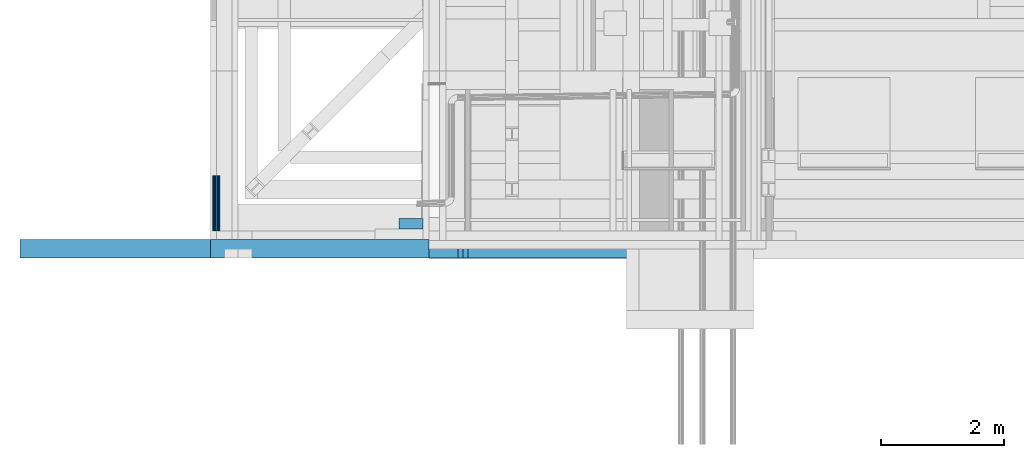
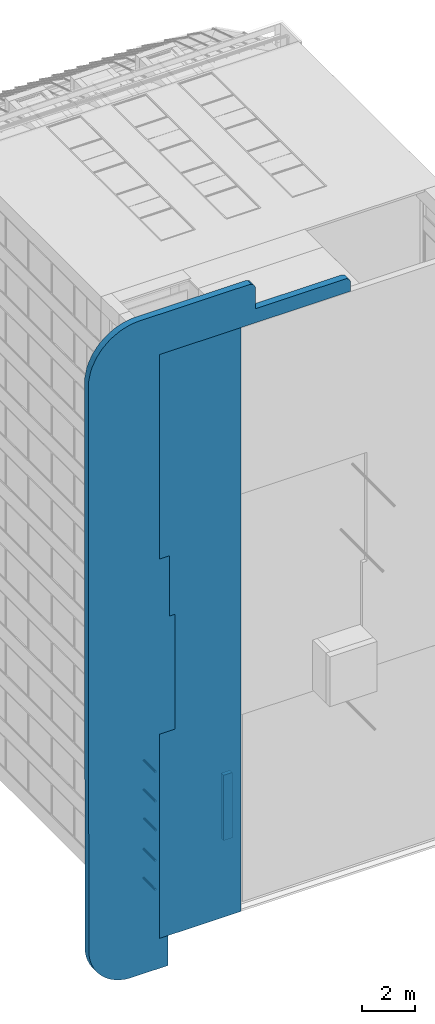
# One storey, part 241 of 583: 5 members, 3 slabs.
"""IFC2X3 building model written with IfcOpenShell, lengths in metres."""

from ifc_helpers import new_model, entity, si_unit, converted_unit, derived_unit, money_unit, direction, frame, origin_with_axes, place, context, subcontext, project, spatial, faceted_brep, material, type_object, element, save


model = new_model("IFC2X3")

# Units and contexts
model_context = context("Model", 3, precision=1e-05, world=origin_with_axes(), true_north=direction((0.0, 1.0)))
body_context = subcontext(model_context, "Body", "Model", "MODEL_VIEW", scale=1.0)
ifc_project = project(units=[si_unit("LENGTHUNIT", "METRE"), si_unit("AREAUNIT", "SQUARE_METRE"), si_unit("VOLUMEUNIT", "CUBIC_METRE"), si_unit("ABSORBEDDOSEUNIT", "GRAY"), si_unit("AMOUNTOFSUBSTANCEUNIT", "MOLE"), si_unit("DOSEEQUIVALENTUNIT", "SIEVERT"), si_unit("ELECTRICCAPACITANCEUNIT", "FARAD"), si_unit("ELECTRICCHARGEUNIT", "COULOMB"), si_unit("ELECTRICCONDUCTANCEUNIT", "SIEMENS"), si_unit("ELECTRICCURRENTUNIT", "AMPERE"), si_unit("ELECTRICRESISTANCEUNIT", "OHM"), si_unit("ELECTRICVOLTAGEUNIT", "VOLT"), si_unit("ENERGYUNIT", "JOULE"), si_unit("FORCEUNIT", "NEWTON"), si_unit("FREQUENCYUNIT", "HERTZ"), si_unit("ILLUMINANCEUNIT", "LUX"), si_unit("INDUCTANCEUNIT", "HENRY"), si_unit("LUMINOUSFLUXUNIT", "LUMEN"), si_unit("LUMINOUSINTENSITYUNIT", "CANDELA"), si_unit("MAGNETICFLUXDENSITYUNIT", "TESLA"), si_unit("MAGNETICFLUXUNIT", "WEBER"), si_unit("MASSUNIT", "GRAM"), converted_unit("PLANEANGLEUNIT", "degree", entity("IfcReal", 0.0174532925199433), si_unit("PLANEANGLEUNIT", "RADIAN"), dimensions=[0, 0, 0, 0, 0, 0, 0]), si_unit("POWERUNIT", "WATT"), si_unit("PRESSUREUNIT", "PASCAL"), si_unit("RADIOACTIVITYUNIT", "BECQUEREL"), si_unit("SOLIDANGLEUNIT", "STERADIAN"), si_unit("THERMODYNAMICTEMPERATUREUNIT", "KELVIN"), si_unit("TIMEUNIT", "SECOND"), derived_unit("ACCELERATIONUNIT", [(si_unit("LENGTHUNIT", "METRE"), 1), (si_unit("TIMEUNIT", "SECOND"), -2)]), derived_unit("ANGULARVELOCITYUNIT", [(converted_unit("PLANEANGLEUNIT", "degree", entity("IfcReal", 0.0174532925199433), si_unit("PLANEANGLEUNIT", "RADIAN"), dimensions=[0, 0, 0, 0, 0, 0, 0]), 1), (si_unit("TIMEUNIT", "SECOND"), -1)]), derived_unit("CURVATUREUNIT", [(converted_unit("PLANEANGLEUNIT", "degree", entity("IfcReal", 0.0174532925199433), si_unit("PLANEANGLEUNIT", "RADIAN"), dimensions=[0, 0, 0, 0, 0, 0, 0]), 1), (si_unit("LENGTHUNIT", "METRE"), -1)]), derived_unit("DYNAMICVISCOSITYUNIT", [(si_unit("PRESSUREUNIT", "PASCAL"), 1), (si_unit("TIMEUNIT", "SECOND"), 1)]), derived_unit("HEATFLUXDENSITYUNIT", [(si_unit("POWERUNIT", "WATT"), 1), (si_unit("LENGTHUNIT", "METRE"), -2)]), derived_unit("HEATINGVALUEUNIT", [(si_unit("ENERGYUNIT", "JOULE"), 1), (si_unit("MASSUNIT", "GRAM"), -1)]), derived_unit("INTEGERCOUNTRATEUNIT", [(si_unit("TIMEUNIT", "SECOND"), -1)]), derived_unit("IONCONCENTRATIONUNIT", [(si_unit("MASSUNIT", "GRAM"), 1), (si_unit("VOLUMEUNIT", "CUBIC_METRE"), -1)]), derived_unit("ISOTHERMALMOISTURECAPACITYUNIT", [(si_unit("VOLUMEUNIT", "CUBIC_METRE"), 1), (si_unit("MASSUNIT", "GRAM"), -1)]), derived_unit("KINEMATICVISCOSITYUNIT", [(si_unit("AREAUNIT", "SQUARE_METRE"), 1), (si_unit("TIMEUNIT", "SECOND"), -1)]), derived_unit("LINEARFORCEUNIT", [(si_unit("FORCEUNIT", "NEWTON"), 1), (si_unit("LENGTHUNIT", "METRE"), -1)]), derived_unit("LINEARMOMENTUNIT", [(si_unit("FORCEUNIT", "NEWTON"), 1), (si_unit("LENGTHUNIT", "METRE"), -1)]), derived_unit("LINEARSTIFFNESSUNIT", [(si_unit("FORCEUNIT", "NEWTON"), 1), (si_unit("LENGTHUNIT", "METRE"), -1)]), derived_unit("LINEARVELOCITYUNIT", [(si_unit("LENGTHUNIT", "METRE"), 1), (si_unit("TIMEUNIT", "SECOND"), -1)]), derived_unit("LUMINOUSINTENSITYDISTRIBUTIONUNIT", [(si_unit("LUMINOUSINTENSITYUNIT", "CANDELA"), 1), (si_unit("LUMINOUSFLUXUNIT", "LUMEN"), -1)]), derived_unit("MASSDENSITYUNIT", [(si_unit("MASSUNIT", "GRAM"), 1), (si_unit("VOLUMEUNIT", "CUBIC_METRE"), -1)]), derived_unit("MASSFLOWRATEUNIT", [(si_unit("MASSUNIT", "GRAM"), 1), (si_unit("TIMEUNIT", "SECOND"), -1)]), derived_unit("MASSPERLENGTHUNIT", [(si_unit("MASSUNIT", "GRAM"), 1), (si_unit("LENGTHUNIT", "METRE"), -1)]), derived_unit("MODULUSOFELASTICITYUNIT", [(si_unit("FORCEUNIT", "NEWTON"), 1), (si_unit("AREAUNIT", "SQUARE_METRE"), -1)]), derived_unit("MODULUSOFLINEARSUBGRADEREACTIONUNIT", [(si_unit("FORCEUNIT", "NEWTON"), 1), (si_unit("LENGTHUNIT", "METRE"), -2)]), derived_unit("MODULUSOFROTATIONALSUBGRADEREACTIONUNIT", [(si_unit("FORCEUNIT", "NEWTON"), 1), (si_unit("LENGTHUNIT", "METRE"), 1)]), derived_unit("MODULUSOFSUBGRADEREACTIONUNIT", [(si_unit("FORCEUNIT", "NEWTON"), 1), (si_unit("VOLUMEUNIT", "CUBIC_METRE"), -1)]), derived_unit("MOISTUREDIFFUSIVITYUNIT", [(si_unit("VOLUMEUNIT", "CUBIC_METRE"), 1), (si_unit("TIMEUNIT", "SECOND"), -1)]), derived_unit("MOLECULARWEIGHTUNIT", [(si_unit("MASSUNIT", "GRAM"), 1), (si_unit("AMOUNTOFSUBSTANCEUNIT", "MOLE"), -1)]), derived_unit("PLANARFORCEUNIT", [(si_unit("FORCEUNIT", "NEWTON"), 1), (si_unit("LENGTHUNIT", "METRE"), -2)]), derived_unit("ROTATIONALFREQUENCYUNIT", [(si_unit("TIMEUNIT", "SECOND"), -1)]), derived_unit("ROTATIONALMASSUNIT", [(si_unit("MASSUNIT", "GRAM"), 1), (si_unit("LENGTHUNIT", "METRE"), 2)]), derived_unit("ROTATIONALSTIFFNESSUNIT", [(si_unit("FORCEUNIT", "NEWTON"), 1), (si_unit("LENGTHUNIT", "METRE"), 1), (converted_unit("PLANEANGLEUNIT", "degree", entity("IfcReal", 0.0174532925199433), si_unit("PLANEANGLEUNIT", "RADIAN"), dimensions=[0, 0, 0, 0, 0, 0, 0]), -1)]), derived_unit("SECTIONAREAINTEGRALUNIT", [(si_unit("LENGTHUNIT", "METRE"), 5)]), derived_unit("SECTIONMODULUSUNIT", [(si_unit("LENGTHUNIT", "METRE"), 3)]), derived_unit("SHEARMODULUSUNIT", [(si_unit("FORCEUNIT", "NEWTON"), 1), (si_unit("AREAUNIT", "SQUARE_METRE"), -1)]), derived_unit("SOUNDPOWERUNIT", [(si_unit("ENERGYUNIT", "JOULE"), 1), (si_unit("TIMEUNIT", "SECOND"), -1)]), derived_unit("SPECIFICHEATCAPACITYUNIT", [(si_unit("FORCEUNIT", "NEWTON"), 1), (si_unit("MASSUNIT", "GRAM"), -1), (si_unit("THERMODYNAMICTEMPERATUREUNIT", "KELVIN"), -1)]), derived_unit("TEMPERATUREGRADIENTUNIT", [(si_unit("THERMODYNAMICTEMPERATUREUNIT", "KELVIN"), 1), (si_unit("LENGTHUNIT", "METRE"), -1)]), derived_unit("THERMALADMITTANCEUNIT", [(si_unit("POWERUNIT", "WATT"), 1), (si_unit("AREAUNIT", "SQUARE_METRE"), -1), (si_unit("THERMODYNAMICTEMPERATUREUNIT", "KELVIN"), -1)]), derived_unit("THERMALCONDUCTANCEUNIT", [(si_unit("POWERUNIT", "WATT"), 1), (si_unit("LENGTHUNIT", "METRE"), -1), (si_unit("THERMODYNAMICTEMPERATUREUNIT", "KELVIN"), -1)]), derived_unit("THERMALEXPANSIONCOEFFICIENTUNIT", [(si_unit("THERMODYNAMICTEMPERATUREUNIT", "KELVIN"), -1)]), derived_unit("THERMALRESISTANCEUNIT", [(si_unit("AREAUNIT", "SQUARE_METRE"), 1), (si_unit("POWERUNIT", "WATT"), -1)]), derived_unit("THERMALTRANSMITTANCEUNIT", [(si_unit("POWERUNIT", "WATT"), 1), (si_unit("AREAUNIT", "SQUARE_METRE"), -1), (si_unit("THERMODYNAMICTEMPERATUREUNIT", "KELVIN"), -1)]), derived_unit("TORQUEUNIT", [(si_unit("FORCEUNIT", "NEWTON"), 1), (si_unit("LENGTHUNIT", "METRE"), 1)]), derived_unit("VAPORPERMEABILITYUNIT", [(si_unit("MASSUNIT", "GRAM"), 1), (si_unit("TIMEUNIT", "SECOND"), -1)]), derived_unit("VOLUMETRICFLOWRATEUNIT", [(si_unit("VOLUMEUNIT", "CUBIC_METRE"), 1), (si_unit("TIMEUNIT", "SECOND"), -1)]), derived_unit("WARPINGCONSTANTUNIT", [(si_unit("LENGTHUNIT", "METRE"), 6)]), derived_unit("WARPINGMOMENTUNIT", [(si_unit("FORCEUNIT", "NEWTON"), 1), (si_unit("LENGTHUNIT", "METRE"), 2)]), money_unit("GBP")], contexts=[model_context])

# Site, building, storey
site_placement = place(None, origin_with_axes())
site = spatial("IfcSite", under=ifc_project, at=site_placement, Name="Site", CompositionType="ELEMENT")
building_placement = place(site_placement, origin_with_axes())
building = spatial("IfcBuilding", under=site, at=building_placement, Name="Building01", CompositionType="ELEMENT")
storey_placement = place(building_placement, frame((0.0, 0.0, 20.78), z_axis=(0.0, 0.0, 1.0), x_axis=(1.0, 0.0, 0.0)))
storey = spatial("IfcBuildingStorey", under=building, at=storey_placement, Name="RL", CompositionType="ELEMENT", Elevation=20.78)

# Members
ifc_material_1 = material(Name="A_BSUK_Steel_Miscellaneous")
member_type = type_object("IfcMemberType", Name="A-FrameElements:A_BSUK_Steel_Miscellaneous", PredefinedType="NOTDEFINED")
placement = place(storey_placement, frame((0.0, 0.0, -20.78), z_axis=(0.0, 0.0, 1.0), x_axis=(1.0, 0.0, 0.0)))
element("IfcMember", 1, at=placement, inside=storey, type_object=member_type, material=ifc_material_1, Name="A-FrameElements--A_BSUK_Steel_Miscellaneous", ObjectType="A-FrameElements:A_BSUK_Steel_Miscellaneous", context=body_context, shape_type="Brep", body=[
    faceted_brep([(0.062308, 0.0, 2.009894), (0.045543, 0.0, 1.998692), (0.03434, 0.0, 1.981927), (0.030407, 0.0, 1.962151), (0.03434, 0.0, 1.942374), (0.045543, 0.0, 1.925609), (0.062308, 0.0, 1.914407), (0.082084, 0.0, 1.910473), (0.10186, 0.0, 1.914407), (0.118626, 0.0, 1.925609), (0.129828, 0.0, 1.942374), (0.133762, 0.0, 1.962151), (0.129828, 0.0, 1.981927), (0.118626, 0.0, 1.998692), (0.10186, 0.0, 2.009894), (0.082084, 0.0, 2.013828), (0.079695, 0.0, 2.013773), (0.082084, 0.9, 1.910473), (0.10186, 0.9, 1.914407), (0.118626, 0.9, 1.925609), (0.129828, 0.9, 1.942374), (0.133762, 0.9, 1.962151), (0.129828, 0.9, 1.981927), (0.118626, 0.9, 1.998692), (0.10186, 0.9, 2.009894), (0.082084, 0.9, 2.013828), (0.079695, 0.9, 2.013773), (0.062308, 0.9, 2.009894), (0.045543, 0.9, 1.998692), (0.03434, 0.9, 1.981927), (0.030407, 0.9, 1.962151), (0.03434, 0.9, 1.942374), (0.045543, 0.9, 1.925609), (0.062308, 0.9, 1.914407)], [[[0, 1, 2, 3, 4, 5, 6, 7, 8, 9, 10, 11, 12, 13, 14, 15, 16]], [[7, 17, 18, 8]], [[8, 18, 19, 9]], [[9, 19, 20, 10]], [[10, 20, 21, 11]], [[11, 21, 22, 12]], [[12, 22, 23, 13]], [[13, 23, 24, 14]], [[14, 24, 25, 15]], [[26, 27, 0, 16]], [[0, 27, 28, 1]], [[1, 28, 29, 2]], [[2, 29, 30, 3]], [[3, 30, 31, 4]], [[4, 31, 32, 5]], [[5, 32, 33, 6]], [[6, 33, 17, 7]], [[16, 15, 25, 26]], [[25, 24, 23, 22, 21, 20, 19, 18, 17, 33, 32, 31, 30, 29, 28, 27, 26]]]),
])
element("IfcMember", 2, at=placement, inside=storey, type_object=member_type, material=ifc_material_1, Name="A-FrameElements--A_BSUK_Steel_Miscellaneous", ObjectType="A-FrameElements:A_BSUK_Steel_Miscellaneous", context=body_context, shape_type="Brep", body=[
    faceted_brep([(0.062308, 0.0, 3.346752), (0.045543, 0.0, 3.33555), (0.03434, 0.0, 3.318784), (0.030407, 0.0, 3.299008), (0.03434, 0.0, 3.279232), (0.045543, 0.0, 3.262466), (0.062308, 0.0, 3.251264), (0.082084, 0.0, 3.24733), (0.10186, 0.0, 3.251264), (0.118626, 0.0, 3.262466), (0.129828, 0.0, 3.279232), (0.133762, 0.0, 3.299008), (0.129828, 0.0, 3.318784), (0.118626, 0.0, 3.33555), (0.10186, 0.0, 3.346752), (0.082084, 0.0, 3.350686), (0.079695, 0.0, 3.35063), (0.082084, 0.9, 3.24733), (0.10186, 0.9, 3.251264), (0.118626, 0.9, 3.262466), (0.129828, 0.9, 3.279232), (0.133762, 0.9, 3.299008), (0.129828, 0.9, 3.318784), (0.118626, 0.9, 3.33555), (0.10186, 0.9, 3.346752), (0.082084, 0.9, 3.350686), (0.079695, 0.9, 3.35063), (0.062308, 0.9, 3.346752), (0.045543, 0.9, 3.33555), (0.03434, 0.9, 3.318784), (0.030407, 0.9, 3.299008), (0.03434, 0.9, 3.279232), (0.045543, 0.9, 3.262466), (0.062308, 0.9, 3.251264)], [[[0, 1, 2, 3, 4, 5, 6, 7, 8, 9, 10, 11, 12, 13, 14, 15, 16]], [[7, 17, 18, 8]], [[8, 18, 19, 9]], [[9, 19, 20, 10]], [[10, 20, 21, 11]], [[11, 21, 22, 12]], [[12, 22, 23, 13]], [[13, 23, 24, 14]], [[14, 24, 25, 15]], [[26, 27, 0, 16]], [[0, 27, 28, 1]], [[1, 28, 29, 2]], [[2, 29, 30, 3]], [[3, 30, 31, 4]], [[4, 31, 32, 5]], [[5, 32, 33, 6]], [[6, 33, 17, 7]], [[16, 15, 25, 26]], [[25, 24, 23, 22, 21, 20, 19, 18, 17, 33, 32, 31, 30, 29, 28, 27, 26]]]),
])
element("IfcMember", 3, at=placement, inside=storey, type_object=member_type, material=ifc_material_1, Name="A-FrameElements--A_BSUK_Steel_Miscellaneous", ObjectType="A-FrameElements:A_BSUK_Steel_Miscellaneous", context=body_context, shape_type="Brep", body=[
    faceted_brep([(0.08334, 0.0, 4.742823), (0.066575, 0.0, 4.731621), (0.055373, 0.0, 4.714856), (0.051439, 0.0, 4.695079), (0.055373, 0.0, 4.675303), (0.066575, 0.0, 4.658538), (0.08334, 0.0, 4.647335), (0.103117, 0.0, 4.643402), (0.122893, 0.0, 4.647335), (0.139658, 0.0, 4.658538), (0.15086, 0.0, 4.675303), (0.154794, 0.0, 4.695079), (0.15086, 0.0, 4.714856), (0.139658, 0.0, 4.731621), (0.122893, 0.0, 4.742823), (0.103117, 0.0, 4.746757), (0.100727, 0.0, 4.746702), (0.103117, 0.9, 4.643402), (0.122893, 0.9, 4.647335), (0.139658, 0.9, 4.658538), (0.15086, 0.9, 4.675303), (0.154794, 0.9, 4.695079), (0.15086, 0.9, 4.714856), (0.139658, 0.9, 4.731621), (0.122893, 0.9, 4.742823), (0.103117, 0.9, 4.746757), (0.100727, 0.9, 4.746702), (0.08334, 0.9, 4.742823), (0.066575, 0.9, 4.731621), (0.055373, 0.9, 4.714856), (0.051439, 0.9, 4.695079), (0.055373, 0.9, 4.675303), (0.066575, 0.9, 4.658538), (0.08334, 0.9, 4.647335)], [[[0, 1, 2, 3, 4, 5, 6, 7, 8, 9, 10, 11, 12, 13, 14, 15, 16]], [[7, 17, 18, 8]], [[8, 18, 19, 9]], [[9, 19, 20, 10]], [[10, 20, 21, 11]], [[11, 21, 22, 12]], [[12, 22, 23, 13]], [[13, 23, 24, 14]], [[14, 24, 25, 15]], [[26, 27, 0, 16]], [[0, 27, 28, 1]], [[1, 28, 29, 2]], [[2, 29, 30, 3]], [[3, 30, 31, 4]], [[4, 31, 32, 5]], [[5, 32, 33, 6]], [[6, 33, 17, 7]], [[16, 15, 25, 26]], [[25, 24, 23, 22, 21, 20, 19, 18, 17, 33, 32, 31, 30, 29, 28, 27, 26]]]),
])
element("IfcMember", 4, at=placement, inside=storey, type_object=member_type, material=ifc_material_1, Name="A-FrameElements--A_BSUK_Steel_Miscellaneous", ObjectType="A-FrameElements:A_BSUK_Steel_Miscellaneous", context=body_context, shape_type="Brep", body=[
    faceted_brep([(0.062814, 0.0, 6.091739), (0.046049, 0.0, 6.080537), (0.034847, 0.0, 6.063771), (0.030913, 0.0, 6.043995), (0.034847, 0.0, 6.024219), (0.046049, 0.0, 6.007453), (0.062814, 0.0, 5.996251), (0.082591, 0.0, 5.992317), (0.102367, 0.0, 5.996251), (0.119132, 0.0, 6.007453), (0.130334, 0.0, 6.024219), (0.134268, 0.0, 6.043995), (0.130334, 0.0, 6.063771), (0.119132, 0.0, 6.080537), (0.102367, 0.0, 6.091739), (0.082591, 0.0, 6.095673), (0.080201, 0.0, 6.095617), (0.082591, 0.9, 5.992317), (0.102367, 0.9, 5.996251), (0.119132, 0.9, 6.007453), (0.130334, 0.9, 6.024219), (0.134268, 0.9, 6.043995), (0.130334, 0.9, 6.063771), (0.119132, 0.9, 6.080537), (0.102367, 0.9, 6.091739), (0.082591, 0.9, 6.095673), (0.080201, 0.9, 6.095617), (0.062814, 0.9, 6.091739), (0.046049, 0.9, 6.080537), (0.034847, 0.9, 6.063771), (0.030913, 0.9, 6.043995), (0.034847, 0.9, 6.024219), (0.046049, 0.9, 6.007453), (0.062814, 0.9, 5.996251)], [[[0, 1, 2, 3, 4, 5, 6, 7, 8, 9, 10, 11, 12, 13, 14, 15, 16]], [[7, 17, 18, 8]], [[8, 18, 19, 9]], [[9, 19, 20, 10]], [[10, 20, 21, 11]], [[11, 21, 22, 12]], [[12, 22, 23, 13]], [[13, 23, 24, 14]], [[14, 24, 25, 15]], [[26, 27, 0, 16]], [[0, 27, 28, 1]], [[1, 28, 29, 2]], [[2, 29, 30, 3]], [[3, 30, 31, 4]], [[4, 31, 32, 5]], [[5, 32, 33, 6]], [[6, 33, 17, 7]], [[16, 15, 25, 26]], [[25, 24, 23, 22, 21, 20, 19, 18, 17, 33, 32, 31, 30, 29, 28, 27, 26]]]),
])
element("IfcMember", 5, at=placement, inside=storey, type_object=member_type, material=ifc_material_1, Name="A-FrameElements--A_BSUK_Steel_Miscellaneous", ObjectType="A-FrameElements:A_BSUK_Steel_Miscellaneous", context=body_context, shape_type="Brep", body=[
    faceted_brep([(0.072802, 0.0, 7.444789), (0.056036, 0.0, 7.433586), (0.044834, 0.0, 7.416821), (0.0409, 0.0, 7.397045), (0.044834, 0.0, 7.377269), (0.056036, 0.0, 7.360503), (0.072802, 0.0, 7.349301), (0.092578, 0.0, 7.345367), (0.112354, 0.0, 7.349301), (0.129119, 0.0, 7.360503), (0.140322, 0.0, 7.377269), (0.144256, 0.0, 7.397045), (0.140322, 0.0, 7.416821), (0.129119, 0.0, 7.433586), (0.112354, 0.0, 7.444789), (0.092578, 0.0, 7.448723), (0.090189, 0.0, 7.448667), (0.092578, 0.9, 7.345367), (0.112354, 0.9, 7.349301), (0.129119, 0.9, 7.360503), (0.140322, 0.9, 7.377269), (0.144256, 0.9, 7.397045), (0.140322, 0.9, 7.416821), (0.129119, 0.9, 7.433586), (0.112354, 0.9, 7.444789), (0.092578, 0.9, 7.448723), (0.090189, 0.9, 7.448667), (0.072802, 0.9, 7.444789), (0.056036, 0.9, 7.433586), (0.044834, 0.9, 7.416821), (0.0409, 0.9, 7.397045), (0.044834, 0.9, 7.377269), (0.056036, 0.9, 7.360503), (0.072802, 0.9, 7.349301)], [[[0, 1, 2, 3, 4, 5, 6, 7, 8, 9, 10, 11, 12, 13, 14, 15, 16]], [[7, 17, 18, 8]], [[8, 18, 19, 9]], [[9, 19, 20, 10]], [[10, 20, 21, 11]], [[11, 21, 22, 12]], [[12, 22, 23, 13]], [[13, 23, 24, 14]], [[14, 24, 25, 15]], [[26, 27, 0, 16]], [[0, 27, 28, 1]], [[1, 28, 29, 2]], [[2, 29, 30, 3]], [[3, 30, 31, 4]], [[4, 31, 32, 5]], [[5, 32, 33, 6]], [[6, 33, 17, 7]], [[16, 15, 25, 26]], [[25, 24, 23, 22, 21, 20, 19, 18, 17, 33, 32, 31, 30, 29, 28, 27, 26]]]),
])

# Slabs
ifc_material_2 = material(Name="A_BSUK_Slabs")
slab_type = type_object("IfcSlabType", Name="A-FloorsSlabs A_BSUK_Slabs", PredefinedType="FLOOR")
element("IfcSlab", 6, at=placement, inside=storey, type_object=slab_type, material=ifc_material_2, Name="A-FloorsSlabs A_BSUK_Slabs", ObjectType="CompoundSlabLeaf", context=body_context, shape_type="Brep", body=[
    faceted_brep([(3.559165, -0.445, 26.981285), (3.559165, -0.145, 26.981285), (-0.000988, -0.145, 26.981285), (-0.000988, -0.445, 26.981285), (3.559142, -0.445, -0.000238), (3.559142, -0.145, -0.000238), (-0.000329, -0.445, 1.7e-05), (-0.000329, -0.145, 1.7e-05), (-0.000329, -0.445, 9.437557), (-0.000329, -0.145, 9.437557), (0.449338, -0.445, 9.437557), (0.449338, -0.145, 9.437557), (0.672774, -0.445, 9.437557), (0.672774, -0.145, 9.437557), (0.672774, -0.445, 14.745613), (0.672774, -0.145, 14.745613), (0.449009, -0.445, 14.745613), (0.449009, -0.145, 14.745613), (0.449009, -0.445, 17.533212), (0.449009, -0.145, 17.533212), (-0.000988, -0.445, 17.533212), (-0.000988, -0.145, 17.533212)], [[[0, 1, 2, 3]], [[4, 5, 1, 0]], [[6, 7, 5, 4]], [[8, 9, 7, 6]], [[10, 11, 9, 8]], [[12, 13, 11, 10]], [[14, 15, 13, 12]], [[16, 17, 15, 14]], [[18, 19, 17, 16]], [[20, 21, 19, 18]], [[3, 2, 21, 20]], [[1, 5, 7, 9, 11, 13, 15, 17, 19, 21, 2]], [[3, 20, 18, 16, 14, 12, 10, 8, 6, 4, 0]]]),
])
element("IfcSlab", 7, at=placement, inside=storey, type_object=slab_type, material=ifc_material_2, Name="A-FloorsSlabs A_BSUK_Slabs", ObjectType="CompoundSlabLeaf", context=body_context, shape_type="Brep", body=[
    faceted_brep([(3.069398, 0.025, 3.157929), (3.069398, 0.198, 3.157929), (3.459398, 0.198, 3.157929), (3.459398, 0.025, 3.157929), (3.069398, 0.025, 6.178553), (3.069398, 0.198, 6.178553), (3.459284, 0.025, 6.178553), (3.459284, 0.198, 6.178553)], [[[0, 1, 2, 3]], [[4, 5, 1, 0]], [[6, 7, 5, 4]], [[3, 2, 7, 6]], [[1, 5, 7, 2]], [[3, 6, 4, 0]]]),
])
element("IfcSlab", 8, at=placement, inside=storey, type_object=slab_type, material=ifc_material_2, Name="A-FloorsSlabs A_BSUK_Slabs", ObjectType="CompoundSlabLeaf", context=body_context, shape_type="Brep", body=[
    faceted_brep([(0.377565, -0.445, -1.380966), (0.377565, -0.145, -1.380966), (0.377513, -0.145, 1.4e-05), (0.377513, -0.445, 1.4e-05), (-1.312597, -0.445, -1.38103), (-1.312597, -0.145, -1.38103), (-1.529854, -0.445, -1.357941), (-1.529854, -0.145, -1.357941), (-1.742445, -0.445, -1.306799), (-1.742445, -0.145, -1.306799), (-1.877344, -0.445, -1.261575), (-1.877344, -0.145, -1.261575), (-2.079855, -0.445, -1.170477), (-2.079855, -0.145, -1.170477), (-2.283018, -0.445, -1.047549), (-2.283018, -0.145, -1.047549), (-2.417917, -0.445, -0.941555), (-2.417917, -0.145, -0.941555), (-2.592771, -0.445, -0.7746), (-2.592771, -0.145, -0.7746), (-2.746679, -0.445, -0.582766), (-2.746679, -0.145, -0.582766), (-2.861828, -0.445, -0.395794), (-2.861828, -0.145, -0.395794), (-2.964932, -0.445, -0.168588), (-2.964932, -0.145, -0.168588), (-3.031347, -0.445, 0.039993), (-3.031347, -0.145, 0.039993), (-3.066674, -0.445, 0.219552), (-3.066674, -0.145, 0.219552), (-3.083765, -0.445, 0.387188), (-3.083765, -0.145, 0.387188), (-3.086414, -0.445, 0.55433), (-3.086414, -0.145, 0.55433), (-3.104674, -0.445, 26.641795), (-3.104674, -0.145, 26.641795), (-3.092737, -0.445, 26.820944), (-3.092737, -0.145, 26.820944), (-3.013879, -0.445, 27.219463), (-3.013879, -0.145, 27.219463), (-2.931245, -0.445, 27.446114), (-2.931245, -0.145, 27.446114), (-2.761027, -0.445, 27.779781), (-2.761027, -0.145, 27.779781), (-2.558457, -0.445, 28.051214), (-2.558457, -0.145, 28.051214), (-2.453027, -0.445, 28.167486), (-2.453027, -0.145, 28.167486), (-2.231361, -0.445, 28.363013), (-2.231361, -0.145, 28.363013), (-2.068468, -0.445, 28.480425), (-2.068468, -0.145, 28.480425), (-1.835956, -0.445, 28.611741), (-1.835956, -0.145, 28.611741), (-1.679135, -0.445, 28.681422), (-1.679135, -0.145, 28.681422), (-1.478055, -0.445, 28.750791), (-1.478055, -0.145, 28.750791), (-1.292407, -0.445, 28.797066), (-1.292407, -0.145, 28.797066), (-1.109668, -0.445, 28.82674), (-1.109668, -0.145, 28.82674), (-0.936913, -0.445, 28.841115), (-0.936913, -0.145, 28.841115), (3.92873, -0.445, 28.841298), (3.92873, -0.145, 28.841298), (4.02921, -0.445, 28.822083), (4.02921, -0.145, 28.822083), (4.118123, -0.445, 28.76432), (4.118123, -0.145, 28.76432), (4.167716, -0.445, 28.696985), (4.167716, -0.145, 28.696985), (4.189913, -0.445, 28.63884), (4.189913, -0.145, 28.63884), (4.197758, -0.445, 28.576029), (4.197758, -0.145, 28.576029), (4.197793, -0.445, 27.63274), (4.197793, -0.145, 27.63274), (8.097401, -0.445, 27.632886), (8.097401, -0.145, 27.632886), (8.1627, -0.445, 27.629754), (8.1627, -0.145, 27.629754), (8.227966, -0.445, 27.605065), (8.227966, -0.145, 27.605065), (8.280731, -0.445, 27.566836), (8.280731, -0.145, 27.566836), (8.318193, -0.445, 27.51739), (8.318193, -0.145, 27.51739), (8.344022, -0.445, 27.451976), (8.344022, -0.145, 27.451976), (8.349192, -0.445, 27.384393), (8.349192, -0.145, 27.384393), (8.349207, -0.445, 26.981469), (8.349207, -0.145, 26.981469), (-0.000988, -0.445, 26.981155), (-0.000988, -0.145, 26.981155), (-0.000633, -0.445, 17.533212), (-0.000633, -0.145, 17.533212), (0.449107, -0.445, 17.533196), (0.449107, -0.145, 17.533196), (0.449009, -0.445, 14.745613), (0.449009, -0.145, 14.745613), (0.672774, -0.445, 14.745605), (0.672774, -0.145, 14.745605), (0.672587, -0.445, 9.437541), (0.672587, -0.145, 9.437541), (-0.000329, -0.445, 9.437565), (-0.000329, -0.145, 9.437565), (-0.000662, -0.445, 1.7e-05), (-0.000662, -0.145, 1.7e-05)], [[[0, 1, 2, 3]], [[4, 5, 1, 0]], [[6, 7, 5, 4]], [[8, 9, 7, 6]], [[10, 11, 9, 8]], [[12, 13, 11, 10]], [[14, 15, 13, 12]], [[16, 17, 15, 14]], [[18, 19, 17, 16]], [[20, 21, 19, 18]], [[22, 23, 21, 20]], [[24, 25, 23, 22]], [[26, 27, 25, 24]], [[28, 29, 27, 26]], [[30, 31, 29, 28]], [[32, 33, 31, 30]], [[34, 35, 33, 32]], [[36, 37, 35, 34]], [[38, 39, 37, 36]], [[40, 41, 39, 38]], [[42, 43, 41, 40]], [[44, 45, 43, 42]], [[46, 47, 45, 44]], [[48, 49, 47, 46]], [[50, 51, 49, 48]], [[52, 53, 51, 50]], [[54, 55, 53, 52]], [[56, 57, 55, 54]], [[58, 59, 57, 56]], [[60, 61, 59, 58]], [[62, 63, 61, 60]], [[64, 65, 63, 62]], [[66, 67, 65, 64]], [[68, 69, 67, 66]], [[70, 71, 69, 68]], [[72, 73, 71, 70]], [[74, 75, 73, 72]], [[76, 77, 75, 74]], [[78, 79, 77, 76]], [[80, 81, 79, 78]], [[82, 83, 81, 80]], [[84, 85, 83, 82]], [[86, 87, 85, 84]], [[88, 89, 87, 86]], [[90, 91, 89, 88]], [[92, 93, 91, 90]], [[94, 95, 93, 92]], [[96, 97, 95, 94]], [[98, 99, 97, 96]], [[100, 101, 99, 98]], [[102, 103, 101, 100]], [[104, 105, 103, 102]], [[106, 107, 105, 104]], [[108, 109, 107, 106]], [[3, 2, 109, 108]], [[1, 5, 7, 9, 11, 13, 15, 17, 19, 21, 23, 25, 27, 29, 31, 33, 35, 37, 39, 41, 43, 45, 47, 49, 51, 53, 55, 57, 59, 61, 63, 65, 67, 69, 71, 73, 75, 77, 79, 81, 83, 85, 87, 89, 91, 93, 95, 97, 99, 101, 103, 105, 107, 109, 2]], [[3, 108, 106, 104, 102, 100, 98, 96, 94, 92, 90, 88, 86, 84, 82, 80, 78, 76, 74, 72, 70, 68, 66, 64, 62, 60, 58, 56, 54, 52, 50, 48, 46, 44, 42, 40, 38, 36, 34, 32, 30, 28, 26, 24, 22, 20, 18, 16, 14, 12, 10, 8, 6, 4, 0]]]),
])

save(model, "model.ifc")
